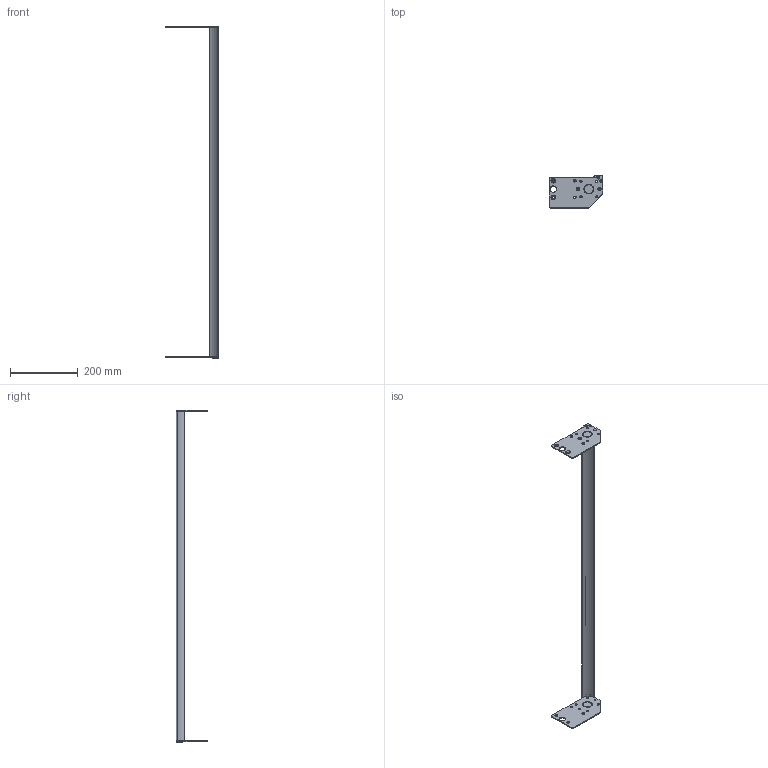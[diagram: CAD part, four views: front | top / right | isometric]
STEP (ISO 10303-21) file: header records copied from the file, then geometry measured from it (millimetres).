
FILE_DESCRIPTION((''),'2;1');
FILE_NAME('27M3300-36_ASM','2022-08-11T',('james.horst'),(''),'PRO/ENGINEER BY PARAMETRIC TECHNOLOGY CORPORATION, 2012420','PRO/ENGINEER BY PARAMETRIC TECHNOLOGY CORPORATION, 2012420','');
FILE_SCHEMA(('CONFIG_CONTROL_DESIGN'));
Length unit declared in the file: inch
Products named in the file (7): 350540_1; 350539-WW; 350541_1; 930410M_1; 27M3300-10_ASM_1_ASM_1_ASM; 27M3300-30_ASM_1_ASM; 27M3300-36_ASM
Assembly tree (9 placements, depth 4):
  27M3300-36_ASM
    27M3300-30_ASM_1_ASM
      27M3300-10_ASM_1_ASM_1_ASM
        350540_1
        350539-WW
        350541_1
        930410M_1  x4
Bounding box: 157.96 x 92.74 x 977.54 mm (x, y, z)
Volume: 352185.6 mm3; surface area: 163596.1 mm2
Topology: 7 solids, 7 shells, 195 faces, 527 edges, 346 vertices
Faces by surface type: cylinder 89, plane 66, cone 40
Entity records: 5204 total; most frequent: DIRECTION 951, CARTESIAN_POINT 886, ORIENTED_EDGE 826, EDGE_CURVE 413, AXIS2_PLACEMENT_3D 376, VERTEX_POINT 274, CIRCLE 208, EDGE_LOOP 205
